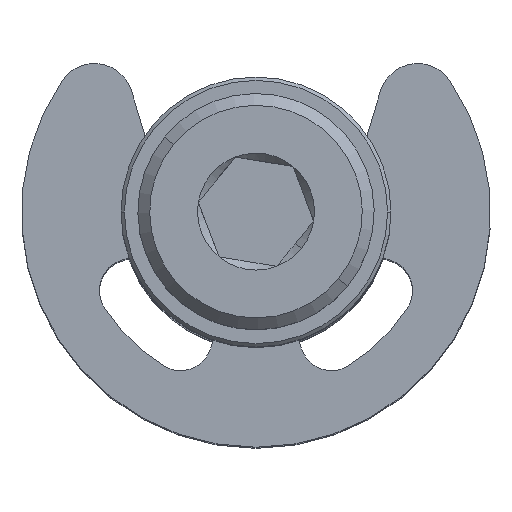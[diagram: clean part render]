
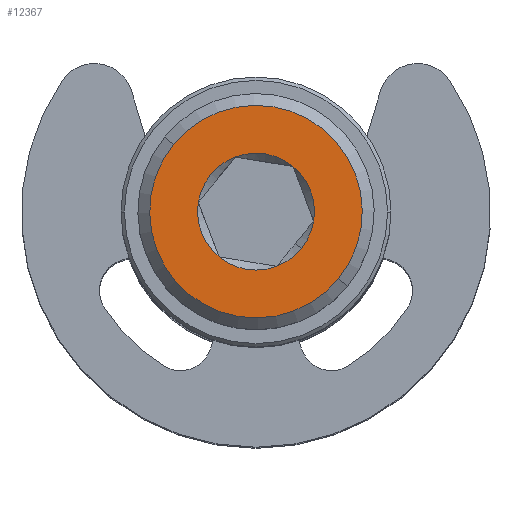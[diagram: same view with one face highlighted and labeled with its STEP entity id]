
A CAD part, top view. The second image highlights one B-rep face of the part: STEP entity #12367.
In plain terms, the highlighted planar face has unit normal (0, 0, 1) as drawn and (0, 0, -1) by its records, which use the part's own axes.
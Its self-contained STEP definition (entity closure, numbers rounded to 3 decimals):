
#263 = CARTESIAN_POINT ( 'NONE',  ( 0., 0., -12. ) ) ;
#451 = CARTESIAN_POINT ( 'NONE',  ( 0., 0., -12. ) ) ;
#506 = CARTESIAN_POINT ( 'NONE',  ( 1.5, -0.866, -12. ) ) ;
#571 = CIRCLE ( 'NONE', #6303, 3.15 ) ;
#574 = ORIENTED_EDGE ( 'NONE', *, *, #11826, .F. ) ;
#1062 = EDGE_CURVE ( 'NONE', #9158, #2752, #12726, .T. ) ;
#1226 = CARTESIAN_POINT ( 'NONE',  ( 0., 0., -12. ) ) ;
#1367 = AXIS2_PLACEMENT_3D ( 'NONE', #263, #3847, #12231 ) ;
#1471 = DIRECTION ( 'NONE',  ( -1., 0., 0. ) ) ;
#1585 = VERTEX_POINT ( 'NONE', #1619 ) ;
#1619 = CARTESIAN_POINT ( 'NONE',  ( 1.5, 0.866, -12. ) ) ;
#1667 = CARTESIAN_POINT ( 'NONE',  ( 0., 0., -12. ) ) ;
#1752 = DIRECTION ( 'NONE',  ( -1., 0., 0. ) ) ;
#1811 = CARTESIAN_POINT ( 'NONE',  ( 0., 0., -12. ) ) ;
#2126 = VERTEX_POINT ( 'NONE', #8217 ) ;
#2209 = DIRECTION ( 'NONE',  ( -1., 0., 0. ) ) ;
#2278 = CIRCLE ( 'NONE', #5321, 1.732 ) ;
#2331 = DIRECTION ( 'NONE',  ( -1., 0., 0. ) ) ;
#2752 = VERTEX_POINT ( 'NONE', #4580 ) ;
#2800 = PLANE ( 'NONE',  #1367 ) ;
#2828 = AXIS2_PLACEMENT_3D ( 'NONE', #11257, #13592, #8867 ) ;
#2943 = AXIS2_PLACEMENT_3D ( 'NONE', #11722, #15129, #2209 ) ;
#3347 = DIRECTION ( 'NONE',  ( -1., 0., 0. ) ) ;
#3700 = EDGE_LOOP ( 'NONE', ( #10640, #7613 ) ) ;
#3847 = DIRECTION ( 'NONE',  ( 0., 0., -1. ) ) ;
#3904 = ORIENTED_EDGE ( 'NONE', *, *, #6783, .F. ) ;
#4036 = AXIS2_PLACEMENT_3D ( 'NONE', #451, #9827, #12216 ) ;
#4377 = EDGE_CURVE ( 'NONE', #4381, #13122, #11041, .T. ) ;
#4381 = VERTEX_POINT ( 'NONE', #506 ) ;
#4580 = CARTESIAN_POINT ( 'NONE',  ( -1.732, 0., -12. ) ) ;
#4598 = DIRECTION ( 'NONE',  ( 0., 0., -1. ) ) ;
#4648 = DIRECTION ( 'NONE',  ( -1., 0., 0. ) ) ;
#4804 = EDGE_LOOP ( 'NONE', ( #14583, #3904, #6285, #574, #10843, #12843, #6057 ) ) ;
#4916 = CIRCLE ( 'NONE', #2943, 1.732 ) ;
#4933 = CIRCLE ( 'NONE', #4036, 1.732 ) ;
#5321 = AXIS2_PLACEMENT_3D ( 'NONE', #1226, #6123, #3347 ) ;
#5848 = CARTESIAN_POINT ( 'NONE',  ( 0., 0., -12. ) ) ;
#6057 = ORIENTED_EDGE ( 'NONE', *, *, #9242, .F. ) ;
#6123 = DIRECTION ( 'NONE',  ( 0., 0., -1. ) ) ;
#6246 = DIRECTION ( 'NONE',  ( 0., 0., -1. ) ) ;
#6285 = ORIENTED_EDGE ( 'NONE', *, *, #1062, .F. ) ;
#6303 = AXIS2_PLACEMENT_3D ( 'NONE', #11330, #7800, #1752 ) ;
#6385 = FACE_BOUND ( 'NONE', #4804, .T. ) ;
#6540 = CIRCLE ( 'NONE', #2828, 3.15 ) ;
#6566 = FACE_OUTER_BOUND ( 'NONE', #3700, .T. ) ;
#6783 = EDGE_CURVE ( 'NONE', #2752, #8007, #2278, .T. ) ;
#6831 = VERTEX_POINT ( 'NONE', #11593 ) ;
#6925 = AXIS2_PLACEMENT_3D ( 'NONE', #1667, #6246, #1471 ) ;
#7292 = CARTESIAN_POINT ( 'NONE',  ( -1.5, -0.866, -12. ) ) ;
#7613 = ORIENTED_EDGE ( 'NONE', *, *, #7639, .T. ) ;
#7639 = EDGE_CURVE ( 'NONE', #6831, #2126, #6540, .T. ) ;
#7800 = DIRECTION ( 'NONE',  ( 0., 0., -1. ) ) ;
#8007 = VERTEX_POINT ( 'NONE', #12000 ) ;
#8217 = CARTESIAN_POINT ( 'NONE',  ( 3.15, 0., -12. ) ) ;
#8330 = EDGE_CURVE ( 'NONE', #2126, #6831, #571, .T. ) ;
#8867 = DIRECTION ( 'NONE',  ( -1., 0., 0. ) ) ;
#9158 = VERTEX_POINT ( 'NONE', #7292 ) ;
#9242 = EDGE_CURVE ( 'NONE', #9987, #1585, #4933, .T. ) ;
#9323 = CIRCLE ( 'NONE', #6925, 1.732 ) ;
#9827 = DIRECTION ( 'NONE',  ( 0., 0., -1. ) ) ;
#9981 = CARTESIAN_POINT ( 'NONE',  ( 0., 1.732, -12. ) ) ;
#9987 = VERTEX_POINT ( 'NONE', #9981 ) ;
#10094 = DIRECTION ( 'NONE',  ( -1., 0., 0. ) ) ;
#10154 = EDGE_CURVE ( 'NONE', #1585, #4381, #4916, .T. ) ;
#10497 = DIRECTION ( 'NONE',  ( 0., 0., -1. ) ) ;
#10502 = CARTESIAN_POINT ( 'NONE',  ( 0., 0., -12. ) ) ;
#10640 = ORIENTED_EDGE ( 'NONE', *, *, #8330, .T. ) ;
#10843 = ORIENTED_EDGE ( 'NONE', *, *, #4377, .F. ) ;
#11041 = CIRCLE ( 'NONE', #14001, 1.732 ) ;
#11257 = CARTESIAN_POINT ( 'NONE',  ( 0., 0., -12. ) ) ;
#11330 = CARTESIAN_POINT ( 'NONE',  ( 0., 0., -12. ) ) ;
#11593 = CARTESIAN_POINT ( 'NONE',  ( -3.15, 0., -12. ) ) ;
#11722 = CARTESIAN_POINT ( 'NONE',  ( 0., 0., -12. ) ) ;
#11826 = EDGE_CURVE ( 'NONE', #13122, #9158, #9323, .T. ) ;
#11918 = CIRCLE ( 'NONE', #12987, 1.732 ) ;
#12000 = CARTESIAN_POINT ( 'NONE',  ( -1.5, 0.866, -12. ) ) ;
#12216 = DIRECTION ( 'NONE',  ( -1., 0., 0. ) ) ;
#12231 = DIRECTION ( 'NONE',  ( -1., 0., 0. ) ) ;
#12367 = ADVANCED_FACE ( 'NONE', ( #6566, #6385 ), #2800, .T. ) ;
#12427 = AXIS2_PLACEMENT_3D ( 'NONE', #10502, #4598, #2331 ) ;
#12726 = CIRCLE ( 'NONE', #12427, 1.732 ) ;
#12785 = CARTESIAN_POINT ( 'NONE',  ( 0., -1.732, -12. ) ) ;
#12791 = EDGE_CURVE ( 'NONE', #8007, #9987, #11918, .T. ) ;
#12843 = ORIENTED_EDGE ( 'NONE', *, *, #10154, .F. ) ;
#12987 = AXIS2_PLACEMENT_3D ( 'NONE', #5848, #10497, #4648 ) ;
#13122 = VERTEX_POINT ( 'NONE', #12785 ) ;
#13578 = DIRECTION ( 'NONE',  ( 0., 0., -1. ) ) ;
#13592 = DIRECTION ( 'NONE',  ( 0., 0., -1. ) ) ;
#14001 = AXIS2_PLACEMENT_3D ( 'NONE', #1811, #13578, #10094 ) ;
#14583 = ORIENTED_EDGE ( 'NONE', *, *, #12791, .F. ) ;
#15129 = DIRECTION ( 'NONE',  ( 0., 0., -1. ) ) ;
